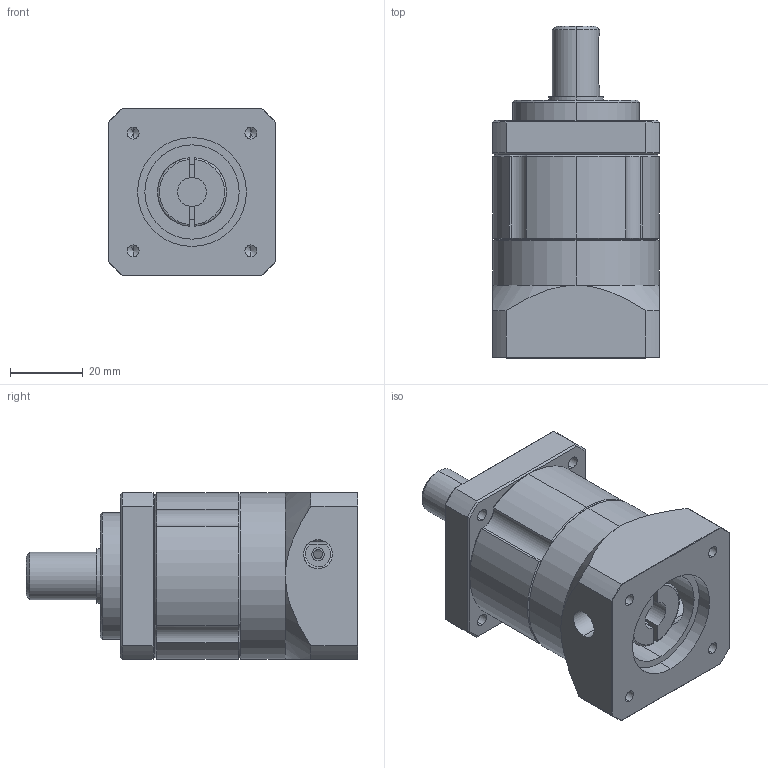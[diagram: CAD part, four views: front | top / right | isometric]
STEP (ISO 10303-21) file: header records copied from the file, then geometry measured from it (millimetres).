
FILE_DESCRIPTION (( 'STEP AP203' ), '1' );
FILE_NAME ('KX40L1£r30PCD£r46M4.STEP', '2014-01-22T06:33:04', ( 'KELLY' ), ( '' ), 'SwSTEP 2.0', 'SolidWorks 2012', '' );
FILE_SCHEMA (( 'CONFIG_CONTROL_DESIGN' ));
Length unit declared in the file: millimetre
Products named in the file (1): KX40L1｣r30PCD｣r46M4
Bounding box: 46 x 91.5 x 46 mm (x, y, z)
Volume: 113617.4 mm3; surface area: 28847.4 mm2
Topology: 3 solids, 3 shells, 178 faces, 424 edges, 256 vertices
Faces by surface type: cylinder 73, cone 54, plane 47, torus 4
Entity records: 5680 total; most frequent: CARTESIAN_POINT 1489, DIRECTION 891, ORIENTED_EDGE 828, EDGE_CURVE 414, AXIS2_PLACEMENT_3D 368, VERTEX_POINT 256, EDGE_LOOP 212, CIRCLE 189
